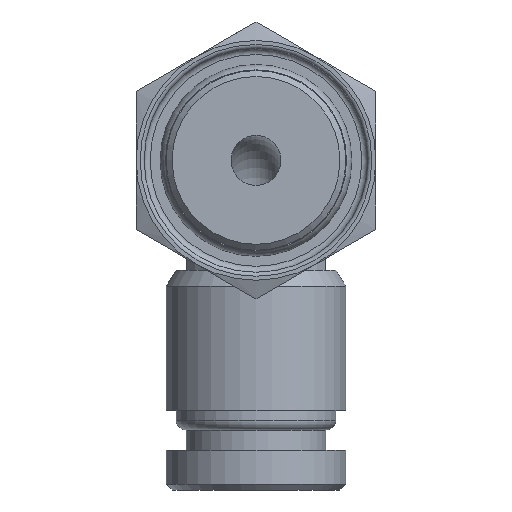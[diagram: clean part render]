
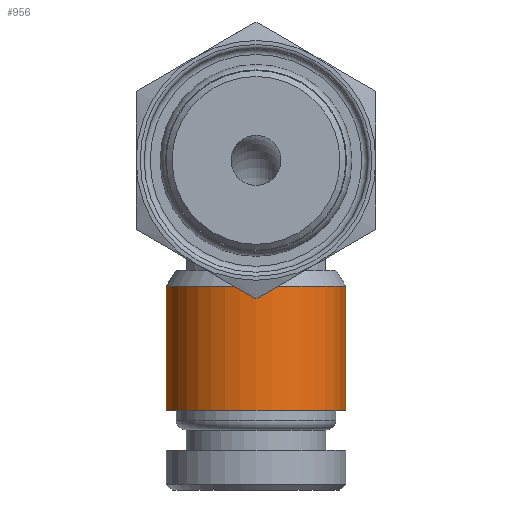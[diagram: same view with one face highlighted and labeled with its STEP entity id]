
A CAD part, front view. The second image highlights one B-rep face of the part: STEP entity #956.
In plain terms, the highlighted cylindrical face has radius 4.5 mm (diameter 9 mm), a full revolution.
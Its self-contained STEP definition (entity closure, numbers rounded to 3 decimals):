
#165=FACE_OUTER_BOUND('',#240,.T.);
#240=EDGE_LOOP('',(#823,#824,#825,#826));
#280=LINE('',#1794,#314);
#314=VECTOR('',#1437,4.5);
#382=CIRCLE('',#1146,4.5);
#385=CIRCLE('',#1152,4.5);
#468=VERTEX_POINT('',#1781);
#470=VERTEX_POINT('',#1791);
#588=EDGE_CURVE('',#468,#468,#382,.T.);
#592=EDGE_CURVE('',#470,#470,#385,.T.);
#593=EDGE_CURVE('',#468,#470,#280,.T.);
#823=ORIENTED_EDGE('',*,*,#588,.F.);
#824=ORIENTED_EDGE('',*,*,#593,.T.);
#825=ORIENTED_EDGE('',*,*,#592,.T.);
#826=ORIENTED_EDGE('',*,*,#593,.F.);
#900=CYLINDRICAL_SURFACE('',#1153,4.5);
#956=ADVANCED_FACE('',(#165),#900,.T.);
#1146=AXIS2_PLACEMENT_3D('',#1783,#1420,#1421);
#1152=AXIS2_PLACEMENT_3D('',#1792,#1433,#1434);
#1153=AXIS2_PLACEMENT_3D('',#1793,#1435,#1436);
#1420=DIRECTION('center_axis',(0.,0.,1.));
#1421=DIRECTION('ref_axis',(1.,0.,0.));
#1433=DIRECTION('center_axis',(0.,0.,1.));
#1434=DIRECTION('ref_axis',(1.,0.,0.));
#1435=DIRECTION('center_axis',(0.,0.,1.));
#1436=DIRECTION('ref_axis',(0.,-1.,0.));
#1437=DIRECTION('',(0.,0.,-1.));
#1781=CARTESIAN_POINT('',(0.,13.,-6.3));
#1783=CARTESIAN_POINT('Origin',(0.,8.5,-6.3));
#1791=CARTESIAN_POINT('',(0.,13.,-12.5));
#1792=CARTESIAN_POINT('Origin',(0.,8.5,-12.5));
#1793=CARTESIAN_POINT('Origin',(0.,8.5,-9.4));
#1794=CARTESIAN_POINT('',(0.,13.,-9.4));
